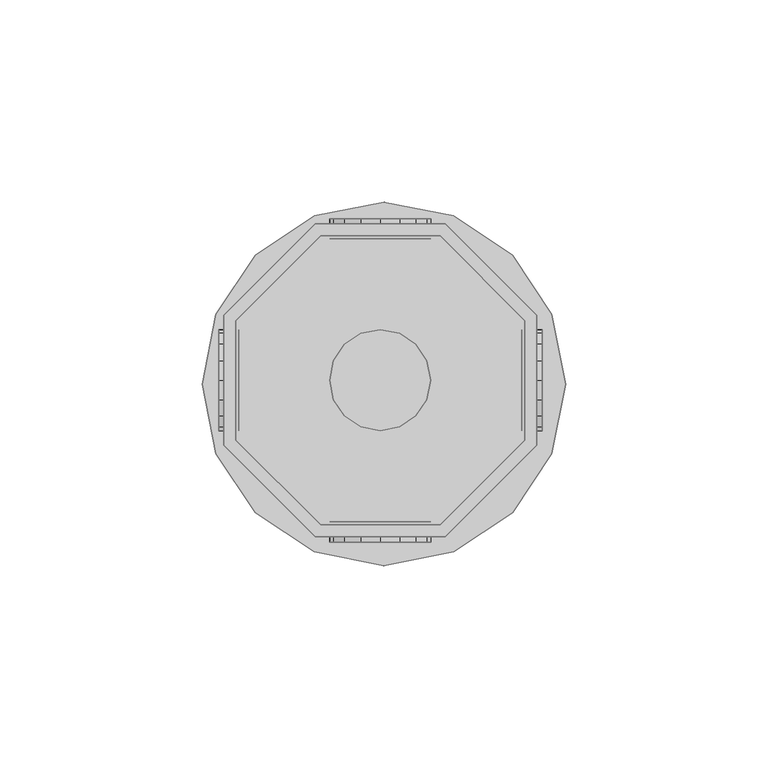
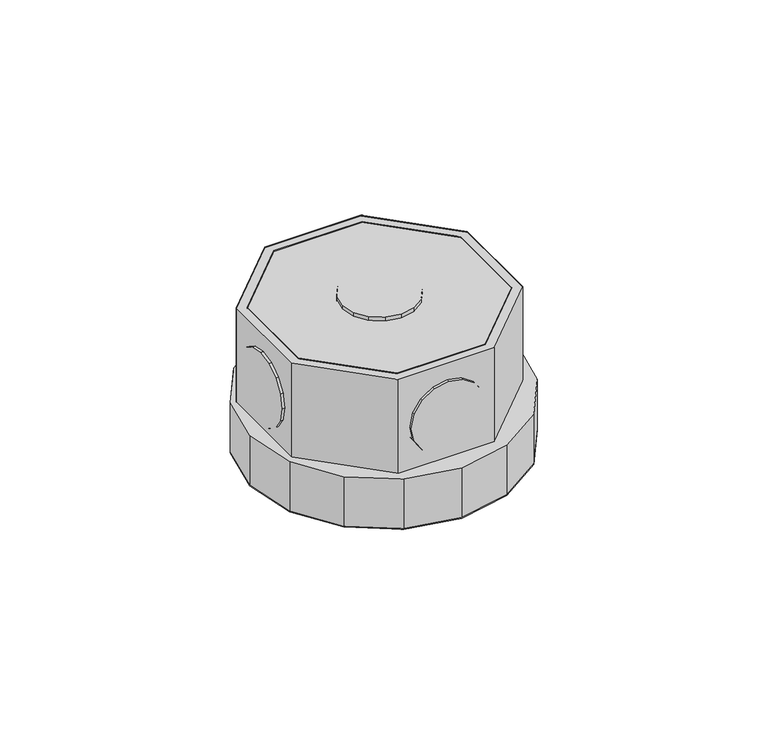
"""IFC4 building model written with IfcOpenShell, lengths in millimetres: light fixture geometry,  212758 :  212758."""

from ifc_helpers import new_model, si_unit, origin, place, context, project, spatial, triangles, source, transform, mapped, element, save


def light_fixture_78c58fe7(model_context):
    return source(origin(), model_context, "Body", "Tessellation", [
        triangles([(27645.0009521, 12422.9998535, 2924.5999741), (27615.4004333, 12422.9998535, 2975.400071), (27615.4004333, 12422.9998535, 2924.5999741), (27645.0009521, 12422.9998535, 2975.400071), (27646.2008789, 12348.4997498, 2924.5999741), (27614.1005127, 12348.4997498, 2975.400071), (27614.1005127, 12348.4997498, 2924.5999741), (27646.2008789, 12348.4997498, 2975.400071), (27594.3993896, 12401.9999725, 2975.400071), (27594.3993896, 12401.9999725, 2924.5999741), (27668.8994934, 12371.199527, 2924.5999741), (27668.8994934, 12371.199527, 2975.400071), (27594.3993896, 12372.3994537, 2975.400071), (27594.3993896, 12372.3994537, 2924.5999741), (27668.8994934, 12403.2998932, 2924.5999741), (27668.8994934, 12403.2998932, 2975.400071), (27615.4004333, 12351.4995667, 2975.400071), (27615.4004333, 12351.4995667, 2924.5999741), (27646.2008789, 12425.9996704, 2924.5999741), (27646.2008789, 12425.9996704, 2975.400071), (27645.0009521, 12351.4995667, 2924.5999741), (27645.0009521, 12351.4995667, 2975.400071), (27614.1005127, 12425.9996704, 2975.400071), (27614.1005127, 12425.9996704, 2924.5999741), (27665.8996765, 12372.3994537, 2924.5999741), (27665.8996765, 12372.3994537, 2975.400071), (27591.3995728, 12403.2998932, 2975.400071), (27591.3995728, 12403.2998932, 2924.5999741), (27591.3995728, 12371.199527, 2975.400071), (27665.8996765, 12401.9999725, 2975.400071), (27665.8996765, 12401.9999725, 2924.5999741), (27591.3995728, 12371.199527, 2924.5999741), (27594.3993896, 12372.3994537, 2972.3999634), (27615.4004333, 12351.4995667, 2972.3999634), (27645.0009521, 12351.4995667, 2972.3999634), (27665.8996765, 12372.3994537, 2972.3999634), (27665.8996765, 12401.9999725, 2972.3999634), (27645.0009521, 12422.9998535, 2972.3999634), (27615.4004333, 12422.9998535, 2972.3999634), (27594.3993896, 12401.9999725, 2972.3999634), (27591.3995728, 12403.2998932, 2942.4000504), (27614.1005127, 12425.9996704, 2942.4000504), (27646.2008789, 12425.9996704, 2942.4000504), (27668.8994934, 12403.2998932, 2942.4000504), (27668.8994934, 12371.199527, 2942.4000504), (27646.2008789, 12348.4997498, 2942.4000504), (27614.1005127, 12348.4997498, 2942.4000504), (27591.3995728, 12371.199527, 2942.4000504), (27613.800531, 12344.7999756, 2942.4000504), (27589.4996887, 12369.0996552, 2942.4000504), (27599.1990967, 12354.5005463, 2942.4000504), (27586.0998962, 12386.2997681, 2942.4000504), (27589.4996887, 12403.5998749, 2942.4000504), (27599.1990967, 12418.2001465, 2942.4000504), (27613.800531, 12427.8995544, 2942.4000504), (27631.0994751, 12431.3005096, 2942.4000504), (27648.3007507, 12427.8995544, 2942.4000504), (27672.5992676, 12403.5998749, 2942.4000504), (27662.8998596, 12418.2001465, 2942.4000504), (27631.0994751, 12341.3001892, 2942.4000504), (27648.3007507, 12344.7999756, 2942.4000504), (27662.8998596, 12354.5005463, 2942.4000504), (27672.5992676, 12369.0996552, 2942.4000504), (27676.099054, 12386.2997681, 2942.4000504), (27589.4996887, 12369.0996552, 2924.5999741), (27613.800531, 12344.7999756, 2924.5999741), (27599.1990967, 12354.5005463, 2924.5999741), (27586.0998962, 12386.2997681, 2924.5999741), (27589.4996887, 12403.5998749, 2924.5999741), (27599.1990967, 12418.2001465, 2924.5999741), (27613.800531, 12427.8995544, 2924.5999741), (27631.0994751, 12431.3005096, 2924.5999741), (27648.3007507, 12427.8995544, 2924.5999741), (27672.5992676, 12403.5998749, 2924.5999741), (27662.8998596, 12418.2001465, 2924.5999741), (27631.0994751, 12341.3001892, 2924.5999741), (27648.3007507, 12344.7999756, 2924.5999741), (27662.8998596, 12354.5005463, 2924.5999741), (27672.5992676, 12369.0996552, 2924.5999741), (27676.099054, 12386.2997681, 2924.5999741), (27618.600238, 12427.1995972, 2952.6000092), (27625.399823, 12427.1995972, 2945.9001274), (27621.3000732, 12427.1995972, 2948.5999626), (27617.700293, 12427.1995972, 2957.4000069), (27630.19953, 12427.1995972, 2944.8998978), (27618.600238, 12427.1995972, 2962.2000046), (27634.9992371, 12427.1995972, 2945.9001274), (27621.3000732, 12427.1995972, 2966.2000511), (27638.9989929, 12427.1995972, 2948.5999626), (27625.399823, 12427.1995972, 2968.8998863), (27641.7011536, 12427.1995972, 2952.6000092), (27630.19953, 12427.1995972, 2969.900116), (27642.7010925, 12427.1995972, 2957.4000069), (27634.9992371, 12427.1995972, 2968.8998863), (27641.7011536, 12427.1995972, 2962.2000046), (27638.9989929, 12427.1995972, 2966.2000511), (27625.399823, 12422.1999023, 2945.9001274), (27618.600238, 12422.1999023, 2952.6000092), (27621.3000732, 12422.1999023, 2948.5999626), (27630.19953, 12422.1999023, 2944.8998978), (27617.700293, 12422.1999023, 2957.4000069), (27634.9992371, 12422.1999023, 2945.9001274), (27618.600238, 12422.1999023, 2962.2000046), (27638.9989929, 12422.1999023, 2948.5999626), (27621.3000732, 12422.1999023, 2966.2000511), (27625.399823, 12422.1999023, 2968.8998863), (27641.7011536, 12422.1999023, 2952.6000092), (27630.19953, 12422.1999023, 2969.900116), (27642.7010925, 12422.1999023, 2957.4000069), (27634.9992371, 12422.1999023, 2968.8998863), (27641.7011536, 12422.1999023, 2962.2000046), (27638.9989929, 12422.1999023, 2966.2000511), (27618.600238, 12352.1995239, 2952.6000092), (27625.399823, 12352.1995239, 2945.9001274), (27621.3000732, 12352.1995239, 2948.5999626), (27617.700293, 12352.1995239, 2957.4000069), (27630.19953, 12352.1995239, 2944.8998978), (27618.600238, 12352.1995239, 2962.2000046), (27634.9992371, 12352.1995239, 2945.9001274), (27621.3000732, 12352.1995239, 2966.2000511), (27638.9989929, 12352.1995239, 2948.5999626), (27625.399823, 12352.1995239, 2968.8998863), (27641.7011536, 12352.1995239, 2952.6000092), (27630.19953, 12352.1995239, 2969.900116), (27642.7010925, 12352.1995239, 2957.4000069), (27634.9992371, 12352.1995239, 2968.8998863), (27641.7011536, 12352.1995239, 2962.2000046), (27638.9989929, 12352.1995239, 2966.2000511), (27625.399823, 12347.1998291, 2945.9001274), (27618.600238, 12347.1998291, 2952.6000092), (27621.3000732, 12347.1998291, 2948.5999626), (27630.19953, 12347.1998291, 2944.8998978), (27617.700293, 12347.1998291, 2957.4000069), (27634.9992371, 12347.1998291, 2945.9001274), (27618.600238, 12347.1998291, 2962.2000046), (27638.9989929, 12347.1998291, 2948.5999626), (27621.3000732, 12347.1998291, 2966.2000511), (27625.399823, 12347.1998291, 2968.8998863), (27641.7011536, 12347.1998291, 2952.6000092), (27630.19953, 12347.1998291, 2969.900116), (27642.7010925, 12347.1998291, 2957.4000069), (27634.9992371, 12347.1998291, 2968.8998863), (27641.7011536, 12347.1998291, 2962.2000046), (27638.9989929, 12347.1998291, 2966.2000511), (27595.1993408, 12382.4000061, 2945.9001274), (27595.1993408, 12375.700415, 2952.6000092), (27595.1993408, 12378.4002502, 2948.5999626), (27595.1993408, 12387.1997131, 2944.8998978), (27595.1993408, 12374.7004761, 2957.4000069), (27595.1993408, 12391.9994202, 2945.9001274), (27595.1993408, 12375.700415, 2962.2000046), (27595.1993408, 12396.1003326, 2948.5999626), (27595.1993408, 12378.4002502, 2966.2000511), (27595.1993408, 12382.4000061, 2968.8998863), (27595.1993408, 12398.8001678, 2952.6000092), (27595.1993408, 12387.1997131, 2969.900116), (27595.1993408, 12399.7001129, 2957.4000069), (27595.1993408, 12391.9994202, 2968.8998863), (27595.1993408, 12398.8001678, 2962.2000046), (27595.1993408, 12396.1003326, 2966.2000511), (27590.199646, 12375.700415, 2952.6000092), (27590.199646, 12382.4000061, 2945.9001274), (27590.199646, 12378.4002502, 2948.5999626), (27590.199646, 12374.7004761, 2957.4000069), (27590.199646, 12387.1997131, 2944.8998978), (27590.199646, 12375.700415, 2962.2000046), (27590.199646, 12391.9994202, 2945.9001274), (27590.199646, 12378.4002502, 2966.2000511), (27590.199646, 12396.1003326, 2948.5999626), (27590.199646, 12382.4000061, 2968.8998863), (27590.199646, 12398.8001678, 2952.6000092), (27590.199646, 12387.1997131, 2969.900116), (27590.199646, 12399.7001129, 2957.4000069), (27590.199646, 12391.9994202, 2968.8998863), (27590.199646, 12398.8001678, 2962.2000046), (27590.199646, 12396.1003326, 2966.2000511), (27670.1994141, 12382.4000061, 2945.9001274), (27670.1994141, 12375.700415, 2952.6000092), (27670.1994141, 12378.4002502, 2948.5999626), (27670.1994141, 12387.1997131, 2944.8998978), (27670.1994141, 12374.7004761, 2957.4000069), (27670.1994141, 12391.9994202, 2945.9001274), (27670.1994141, 12375.700415, 2962.2000046), (27670.1994141, 12396.1003326, 2948.5999626), (27670.1994141, 12378.4002502, 2966.2000511), (27670.1994141, 12382.4000061, 2968.8998863), (27670.1994141, 12398.8001678, 2952.6000092), (27670.1994141, 12387.1997131, 2969.900116), (27670.1994141, 12399.7001129, 2957.4000069), (27670.1994141, 12391.9994202, 2968.8998863), (27670.1994141, 12398.8001678, 2962.2000046), (27670.1994141, 12396.1003326, 2966.2000511), (27665.1997192, 12375.700415, 2952.6000092), (27665.1997192, 12382.4000061, 2945.9001274), (27665.1997192, 12378.4002502, 2948.5999626), (27665.1997192, 12374.7004761, 2957.4000069), (27665.1997192, 12387.1997131, 2944.8998978), (27665.1997192, 12375.700415, 2962.2000046), (27665.1997192, 12391.9994202, 2945.9001274), (27665.1997192, 12378.4002502, 2966.2000511), (27665.1997192, 12396.1003326, 2948.5999626), (27665.1997192, 12382.4000061, 2968.8998863), (27665.1997192, 12398.8001678, 2952.6000092), (27665.1997192, 12387.1997131, 2969.900116), (27665.1997192, 12399.7001129, 2957.4000069), (27665.1997192, 12391.9994202, 2968.8998863), (27665.1997192, 12398.8001678, 2962.2000046), (27665.1997192, 12396.1003326, 2966.2000511), (27625.399823, 12375.700415, 2976.9999733), (27618.600238, 12382.4000061, 2976.9999733), (27621.3000732, 12378.4002502, 2976.9999733), (27617.700293, 12387.1997131, 2976.9999733), (27630.19953, 12374.7004761, 2976.9999733), (27618.600238, 12391.9994202, 2976.9999733), (27634.9992371, 12375.700415, 2976.9999733), (27621.3000732, 12396.1003326, 2976.9999733), (27638.9989929, 12378.4002502, 2976.9999733), (27625.399823, 12398.8001678, 2976.9999733), (27641.7011536, 12382.4000061, 2976.9999733), (27630.19953, 12399.7001129, 2976.9999733), (27642.7010925, 12387.1997131, 2976.9999733), (27634.9992371, 12398.8001678, 2976.9999733), (27641.7011536, 12391.9994202, 2976.9999733), (27638.9989929, 12396.1003326, 2976.9999733), (27618.600238, 12382.4000061, 2971.9999878), (27625.399823, 12375.700415, 2971.9999878), (27621.3000732, 12378.4002502, 2971.9999878), (27617.700293, 12387.1997131, 2971.9999878), (27630.19953, 12374.7004761, 2971.9999878), (27618.600238, 12391.9994202, 2971.9999878), (27634.9992371, 12375.700415, 2971.9999878), (27621.3000732, 12396.1003326, 2971.9999878), (27638.9989929, 12378.4002502, 2971.9999878), (27625.399823, 12398.8001678, 2971.9999878), (27641.7011536, 12382.4000061, 2971.9999878), (27630.19953, 12399.7001129, 2971.9999878), (27642.7010925, 12387.1997131, 2971.9999878), (27634.9992371, 12398.8001678, 2971.9999878), (27641.7011536, 12391.9994202, 2971.9999878), (27638.9989929, 12396.1003326, 2971.9999878)], [[1, 2, 3], [2, 1, 4], [5, 6, 7], [6, 5, 8], [3, 9, 10], [9, 3, 2], [11, 8, 5], [8, 11, 12], [10, 13, 14], [13, 10, 9], [15, 12, 11], [12, 15, 16], [14, 17, 18], [17, 14, 13], [19, 16, 15], [16, 19, 20], [17, 21, 18], [21, 17, 22], [23, 19, 24], [19, 23, 20], [22, 25, 21], [25, 22, 26], [27, 24, 28], [24, 27, 23], [6, 13, 29], [29, 13, 27], [27, 13, 9], [27, 9, 23], [23, 9, 2], [23, 2, 4], [23, 4, 20], [20, 4, 30], [8, 17, 6], [6, 17, 13], [17, 8, 22], [12, 22, 8], [22, 12, 26], [30, 26, 12], [16, 30, 12], [20, 30, 16], [30, 1, 31], [1, 30, 4], [6, 32, 7], [32, 6, 29], [32, 14, 7], [28, 14, 32], [14, 28, 10], [24, 10, 28], [10, 24, 3], [1, 3, 24], [19, 1, 24], [31, 1, 19], [7, 18, 5], [14, 18, 7], [5, 18, 21], [5, 21, 11], [11, 21, 25], [11, 25, 31], [11, 31, 15], [15, 31, 19], [26, 31, 25], [31, 26, 30], [29, 28, 32], [28, 29, 27], [17, 33, 34], [33, 17, 13], [35, 17, 34], [17, 35, 22], [36, 22, 35], [22, 36, 26], [37, 26, 36], [26, 37, 30], [38, 30, 37], [30, 38, 4], [2, 38, 39], [38, 2, 4], [17, 9, 13], [9, 17, 22], [9, 22, 2], [2, 22, 26], [2, 26, 4], [4, 26, 30], [13, 40, 33], [40, 13, 9], [40, 34, 33], [35, 34, 40], [35, 40, 39], [35, 39, 36], [36, 39, 38], [36, 38, 37], [9, 39, 40], [39, 9, 2], [24, 41, 28], [41, 24, 42], [19, 42, 24], [42, 19, 43], [44, 19, 15], [19, 44, 43], [45, 15, 11], [15, 45, 44], [46, 11, 5], [11, 46, 45], [47, 5, 7], [5, 47, 46], [32, 47, 7], [47, 32, 48], [28, 48, 32], [48, 28, 41], [49, 50, 51], [48, 50, 49], [50, 48, 52], [41, 52, 48], [52, 41, 53], [53, 41, 54], [42, 54, 41], [54, 42, 55], [55, 42, 43], [55, 43, 56], [56, 43, 57], [57, 43, 44], [57, 44, 58], [57, 58, 59], [47, 49, 60], [49, 47, 48], [47, 60, 46], [61, 46, 60], [46, 61, 62], [46, 62, 45], [45, 62, 63], [44, 45, 63], [44, 63, 64], [44, 64, 58], [65, 66, 67], [66, 65, 32], [68, 32, 65], [32, 68, 28], [28, 68, 69], [70, 28, 69], [28, 70, 24], [71, 24, 70], [19, 24, 71], [19, 71, 72], [73, 19, 72], [19, 73, 15], [74, 15, 73], [74, 73, 75], [76, 66, 7], [32, 7, 66], [5, 76, 7], [76, 5, 77], [77, 5, 78], [11, 78, 5], [78, 11, 79], [79, 11, 15], [79, 15, 80], [80, 15, 74], [57, 75, 73], [75, 57, 59], [56, 73, 72], [73, 56, 57], [55, 72, 71], [72, 55, 56], [54, 71, 70], [71, 54, 55], [53, 70, 69], [70, 53, 54], [52, 69, 68], [69, 52, 53], [50, 68, 65], [68, 50, 52], [51, 65, 67], [65, 51, 50], [66, 51, 67], [51, 66, 49], [76, 49, 66], [49, 76, 60], [77, 60, 76], [60, 77, 61], [78, 61, 77], [61, 78, 62], [79, 62, 78], [62, 79, 63], [80, 63, 79], [63, 80, 64], [75, 58, 74], [58, 75, 59], [74, 64, 80], [64, 74, 58], [81, 82, 83], [82, 81, 84], [85, 82, 84], [85, 84, 86], [87, 85, 86], [87, 86, 88], [87, 88, 89], [89, 88, 90], [89, 90, 91], [91, 90, 92], [91, 92, 93], [93, 92, 94], [93, 94, 95], [95, 94, 96], [97, 98, 99], [98, 97, 100], [101, 98, 100], [101, 100, 102], [103, 101, 102], [103, 102, 104], [103, 104, 105], [105, 104, 106], [106, 104, 107], [106, 107, 108], [108, 107, 109], [108, 109, 110], [110, 109, 111], [110, 111, 112], [87, 104, 102], [104, 87, 89], [85, 102, 100], [102, 85, 87], [82, 100, 97], [100, 82, 85], [83, 97, 99], [97, 83, 82], [98, 83, 99], [83, 98, 81], [101, 81, 98], [81, 101, 84], [103, 84, 101], [84, 103, 86], [105, 86, 103], [86, 105, 88], [106, 88, 105], [88, 106, 90], [108, 90, 106], [90, 108, 92], [110, 92, 108], [92, 110, 94], [112, 94, 110], [94, 112, 96], [95, 112, 111], [112, 95, 96], [93, 111, 109], [111, 93, 95], [89, 107, 104], [107, 89, 91], [91, 109, 107], [109, 91, 93], [113, 114, 115], [114, 113, 116], [117, 114, 116], [117, 116, 118], [119, 117, 118], [119, 118, 120], [119, 120, 121], [121, 120, 122], [121, 122, 123], [123, 122, 124], [123, 124, 125], [125, 124, 126], [125, 126, 127], [127, 126, 128], [129, 130, 131], [130, 129, 132], [133, 130, 132], [133, 132, 134], [135, 133, 134], [135, 134, 136], [135, 136, 137], [137, 136, 138], [138, 136, 139], [138, 139, 140], [140, 139, 141], [140, 141, 142], [142, 141, 143], [142, 143, 144], [119, 136, 134], [136, 119, 121], [117, 134, 132], [134, 117, 119], [114, 132, 129], [132, 114, 117], [115, 129, 131], [129, 115, 114], [130, 115, 131], [115, 130, 113], [133, 113, 130], [113, 133, 116], [135, 116, 133], [116, 135, 118], [137, 118, 135], [118, 137, 120], [138, 120, 137], [120, 138, 122], [140, 122, 138], [122, 140, 124], [142, 124, 140], [124, 142, 126], [144, 126, 142], [126, 144, 128], [127, 144, 143], [144, 127, 128], [125, 143, 141], [143, 125, 127], [121, 139, 136], [139, 121, 123], [123, 141, 139], [141, 123, 125], [145, 146, 147], [146, 145, 148], [149, 146, 148], [149, 148, 150], [151, 149, 150], [151, 150, 152], [151, 152, 153], [153, 152, 154], [154, 152, 155], [154, 155, 156], [156, 155, 157], [156, 157, 158], [158, 157, 159], [158, 159, 160], [161, 162, 163], [162, 161, 164], [165, 162, 164], [165, 164, 166], [167, 165, 166], [167, 166, 168], [169, 167, 168], [169, 168, 170], [169, 170, 171], [171, 170, 172], [171, 172, 173], [173, 172, 174], [173, 174, 175], [175, 174, 176], [158, 176, 174], [176, 158, 160], [156, 174, 172], [174, 156, 158], [154, 172, 170], [172, 154, 156], [153, 170, 168], [170, 153, 154], [151, 168, 166], [168, 151, 153], [149, 166, 164], [166, 149, 151], [146, 164, 161], [164, 146, 149], [147, 161, 163], [161, 147, 146], [162, 147, 163], [147, 162, 145], [165, 145, 162], [145, 165, 148], [167, 148, 165], [148, 167, 150], [169, 150, 167], [150, 169, 152], [171, 152, 169], [152, 171, 155], [173, 155, 171], [155, 173, 157], [176, 159, 175], [159, 176, 160], [175, 157, 173], [157, 175, 159], [177, 178, 179], [178, 177, 180], [181, 178, 180], [181, 180, 182], [183, 181, 182], [183, 182, 184], [183, 184, 185], [185, 184, 186], [186, 184, 187], [186, 187, 188], [188, 187, 189], [188, 189, 190], [190, 189, 191], [190, 191, 192], [193, 194, 195], [194, 193, 196], [197, 194, 196], [197, 196, 198], [199, 197, 198], [199, 198, 200], [201, 199, 200], [201, 200, 202], [201, 202, 203], [203, 202, 204], [203, 204, 205], [205, 204, 206], [205, 206, 207], [207, 206, 208], [190, 208, 206], [208, 190, 192], [188, 206, 204], [206, 188, 190], [186, 204, 202], [204, 186, 188], [185, 202, 200], [202, 185, 186], [183, 200, 198], [200, 183, 185], [181, 198, 196], [198, 181, 183], [178, 196, 193], [196, 178, 181], [179, 193, 195], [193, 179, 178], [194, 179, 195], [179, 194, 177], [197, 177, 194], [177, 197, 180], [199, 180, 197], [180, 199, 182], [201, 182, 199], [182, 201, 184], [203, 184, 201], [184, 203, 187], [205, 187, 203], [187, 205, 189], [208, 191, 207], [191, 208, 192], [207, 189, 205], [189, 207, 191], [209, 210, 211], [212, 210, 209], [212, 209, 213], [214, 212, 213], [214, 213, 215], [216, 214, 215], [216, 215, 217], [216, 217, 218], [218, 217, 219], [218, 219, 220], [220, 219, 221], [220, 221, 222], [222, 221, 223], [222, 223, 224], [225, 226, 227], [226, 225, 228], [229, 226, 228], [229, 228, 230], [231, 229, 230], [231, 230, 232], [231, 232, 233], [233, 232, 234], [233, 234, 235], [235, 234, 236], [235, 236, 237], [237, 236, 238], [237, 238, 239], [239, 238, 240], [222, 240, 238], [240, 222, 224], [220, 238, 236], [238, 220, 222], [218, 236, 234], [236, 218, 220], [216, 234, 232], [234, 216, 218], [214, 232, 230], [232, 214, 216], [212, 230, 228], [230, 212, 214], [210, 228, 225], [228, 210, 212], [211, 225, 227], [225, 211, 210], [226, 211, 227], [211, 226, 209], [229, 209, 226], [209, 229, 213], [231, 213, 229], [213, 231, 215], [233, 215, 231], [215, 233, 217], [235, 217, 233], [217, 235, 219], [237, 219, 235], [219, 237, 221], [240, 223, 239], [223, 240, 224], [239, 221, 237], [221, 239, 223]], closed=False),
    ])


if __name__ == "__main__":
    model = new_model("IFC4")
    model_context = context("Model", 3, world=origin())
    ifc_project = project(units=[si_unit("LENGTHUNIT", "METRE", prefix="MILLI")], contexts=[model_context])
    site = spatial("IfcSite", under=ifc_project)
    building = spatial("IfcBuilding", under=site)
    placement = place(None, origin())
    light_fixture_shape = light_fixture_78c58fe7(model_context)
    element("IfcLightFixture", 1, ObjectType=" 212758 :  212758", at=placement, inside=building, context=model_context, shape_type="MappedRepresentation", body=[
        mapped(light_fixture_shape, transform((0.0, 0.0, 0.0), x_axis=(1.0, 0.0, 0.0), y_axis=(0.0, 1.0, 0.0), z_axis=(0.0, 0.0, 1.0))),
    ])
    save(model, "model.ifc")
